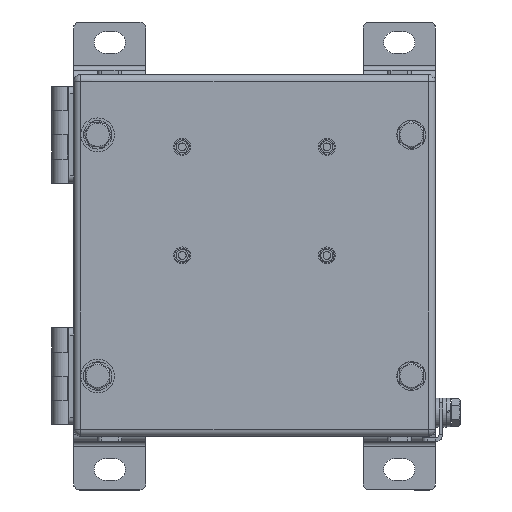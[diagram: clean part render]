
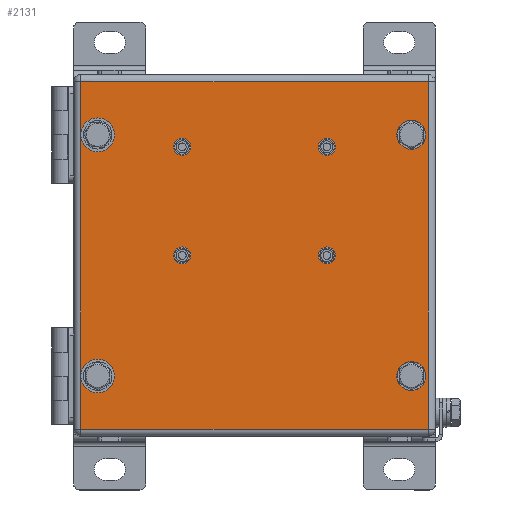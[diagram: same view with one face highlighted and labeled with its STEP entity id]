
A CAD part, top view. The second image highlights one B-rep face of the part: STEP entity #2131.
In plain terms, the highlighted planar face has unit normal (0, 0, 1).
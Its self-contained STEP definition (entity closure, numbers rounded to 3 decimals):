
#1605=CARTESIAN_POINT('',(72.0,-72.,120.));
#1606=VERTEX_POINT('',#1605);
#1672=CARTESIAN_POINT('',(72.0,72.,120.));
#1673=VERTEX_POINT('',#1672);
#1739=CARTESIAN_POINT('',(-72.,-72.,120.));
#1740=VERTEX_POINT('',#1739);
#1812=CARTESIAN_POINT('',(72.0,-72.,120.));
#1813=DIRECTION('',(-1.0,0.0,0.0));
#1814=VECTOR('',#1813,144.0);
#1815=LINE('',#1812,#1814);
#1816=EDGE_CURVE('',#1606,#1740,#1815,.T.);
#1828=CARTESIAN_POINT('',(-72.,72.,120.));
#1829=VERTEX_POINT('',#1828);
#1901=CARTESIAN_POINT('',(-72.,-72.,120.));
#1902=DIRECTION('',(0.0,1.0,0.0));
#1903=VECTOR('',#1902,144.0);
#1904=LINE('',#1901,#1903);
#1905=EDGE_CURVE('',#1740,#1829,#1904,.T.);
#1923=CARTESIAN_POINT('',(-72.0,72.,120.));
#1924=DIRECTION('',(1.0,0.0,0.0));
#1925=VECTOR('',#1924,144.0);
#1926=LINE('',#1923,#1925);
#1927=EDGE_CURVE('',#1829,#1673,#1926,.T.);
#1945=CARTESIAN_POINT('',(72.0,72.,120.));
#1946=DIRECTION('',(0.0,-1.0,0.0));
#1947=VECTOR('',#1946,144.);
#1948=LINE('',#1945,#1947);
#1949=EDGE_CURVE('',#1673,#1606,#1948,.T.);
#2032=CARTESIAN_POINT('',(0.,0.,120.));
#2033=DIRECTION('',(0.0,0.0,1.0));
#2034=DIRECTION('',(1.0,0.0,0.0));
#2035=AXIS2_PLACEMENT_3D('',#2032,#2033,#2034);
#2036=PLANE('',#2035);
#2037=ORIENTED_EDGE('',*,*,#1816,.F.);
#2038=ORIENTED_EDGE('',*,*,#1949,.F.);
#2039=ORIENTED_EDGE('',*,*,#1927,.F.);
#2040=ORIENTED_EDGE('',*,*,#1905,.F.);
#2041=EDGE_LOOP('',(#2037,#2038,#2039,#2040));
#2042=FACE_OUTER_BOUND('',#2041,.T.);
#2043=CARTESIAN_POINT('',(-61.25,50.,120.));
#2044=VERTEX_POINT('',#2043);
#2045=CARTESIAN_POINT('',(-65.,50.,120.));
#2046=DIRECTION('',(0.0,0.0,-1.0));
#2047=DIRECTION('',(-1.0,0.0,0.0));
#2048=AXIS2_PLACEMENT_3D('',#2045,#2046,#2047);
#2049=CIRCLE('',#2048,3.75);
#2050=EDGE_CURVE('',#2044,#2044,#2049,.T.);
#2051=ORIENTED_EDGE('',*,*,#2050,.T.);
#2052=EDGE_LOOP('',(#2051));
#2053=FACE_BOUND('',#2052,.T.);
#2054=CARTESIAN_POINT('',(68.75,50.,120.));
#2055=VERTEX_POINT('',#2054);
#2056=CARTESIAN_POINT('',(65.,50.,120.));
#2057=DIRECTION('',(0.0,0.0,-1.0));
#2058=DIRECTION('',(-1.0,0.0,0.0));
#2059=AXIS2_PLACEMENT_3D('',#2056,#2057,#2058);
#2060=CIRCLE('',#2059,3.75);
#2061=EDGE_CURVE('',#2055,#2055,#2060,.T.);
#2062=ORIENTED_EDGE('',*,*,#2061,.T.);
#2063=EDGE_LOOP('',(#2062));
#2064=FACE_BOUND('',#2063,.T.);
#2065=CARTESIAN_POINT('',(-61.25,-50.,120.0));
#2066=VERTEX_POINT('',#2065);
#2067=CARTESIAN_POINT('',(-65.,-50.,120.0));
#2068=DIRECTION('',(0.0,0.0,-1.0));
#2069=DIRECTION('',(-1.0,0.0,0.0));
#2070=AXIS2_PLACEMENT_3D('',#2067,#2068,#2069);
#2071=CIRCLE('',#2070,3.75);
#2072=EDGE_CURVE('',#2066,#2066,#2071,.T.);
#2073=ORIENTED_EDGE('',*,*,#2072,.T.);
#2074=EDGE_LOOP('',(#2073));
#2075=FACE_BOUND('',#2074,.T.);
#2076=CARTESIAN_POINT('',(68.75,-50.,120.));
#2077=VERTEX_POINT('',#2076);
#2078=CARTESIAN_POINT('',(65.,-50.,120.));
#2079=DIRECTION('',(0.0,0.0,-1.0));
#2080=DIRECTION('',(-1.0,0.0,0.0));
#2081=AXIS2_PLACEMENT_3D('',#2078,#2079,#2080);
#2082=CIRCLE('',#2081,3.75);
#2083=EDGE_CURVE('',#2077,#2077,#2082,.T.);
#2084=ORIENTED_EDGE('',*,*,#2083,.T.);
#2085=EDGE_LOOP('',(#2084));
#2086=FACE_BOUND('',#2085,.T.);
#2087=CARTESIAN_POINT('',(33.05,45.,120.));
#2088=VERTEX_POINT('',#2087);
#2089=CARTESIAN_POINT('',(30.,45.,120.));
#2090=DIRECTION('',(0.0,0.0,-1.0));
#2091=DIRECTION('',(-1.0,0.0,0.0));
#2092=AXIS2_PLACEMENT_3D('',#2089,#2090,#2091);
#2093=CIRCLE('',#2092,3.05);
#2094=EDGE_CURVE('',#2088,#2088,#2093,.T.);
#2095=ORIENTED_EDGE('',*,*,#2094,.T.);
#2096=EDGE_LOOP('',(#2095));
#2097=FACE_BOUND('',#2096,.T.);
#2098=CARTESIAN_POINT('',(-26.95,45.,120.));
#2099=VERTEX_POINT('',#2098);
#2100=CARTESIAN_POINT('',(-30.,45.,120.));
#2101=DIRECTION('',(0.0,0.0,-1.0));
#2102=DIRECTION('',(-1.0,0.0,0.0));
#2103=AXIS2_PLACEMENT_3D('',#2100,#2101,#2102);
#2104=CIRCLE('',#2103,3.05);
#2105=EDGE_CURVE('',#2099,#2099,#2104,.T.);
#2106=ORIENTED_EDGE('',*,*,#2105,.T.);
#2107=EDGE_LOOP('',(#2106));
#2108=FACE_BOUND('',#2107,.T.);
#2109=CARTESIAN_POINT('',(-26.95,0.,120.));
#2110=VERTEX_POINT('',#2109);
#2111=CARTESIAN_POINT('',(-30.,0.,120.));
#2112=DIRECTION('',(0.0,0.0,-1.0));
#2113=DIRECTION('',(-1.0,0.0,0.0));
#2114=AXIS2_PLACEMENT_3D('',#2111,#2112,#2113);
#2115=CIRCLE('',#2114,3.05);
#2116=EDGE_CURVE('',#2110,#2110,#2115,.T.);
#2117=ORIENTED_EDGE('',*,*,#2116,.T.);
#2118=EDGE_LOOP('',(#2117));
#2119=FACE_BOUND('',#2118,.T.);
#2120=CARTESIAN_POINT('',(33.05,0.,120.));
#2121=VERTEX_POINT('',#2120);
#2122=CARTESIAN_POINT('',(30.,0.,120.));
#2123=DIRECTION('',(0.0,0.0,-1.0));
#2124=DIRECTION('',(-1.0,0.0,0.0));
#2125=AXIS2_PLACEMENT_3D('',#2122,#2123,#2124);
#2126=CIRCLE('',#2125,3.05);
#2127=EDGE_CURVE('',#2121,#2121,#2126,.T.);
#2128=ORIENTED_EDGE('',*,*,#2127,.T.);
#2129=EDGE_LOOP('',(#2128));
#2130=FACE_BOUND('',#2129,.T.);
#2131=ADVANCED_FACE('',(#2042,#2053,#2064,#2075,#2086,#2097,#2108,#2119,#2130),#2036,.T.);
